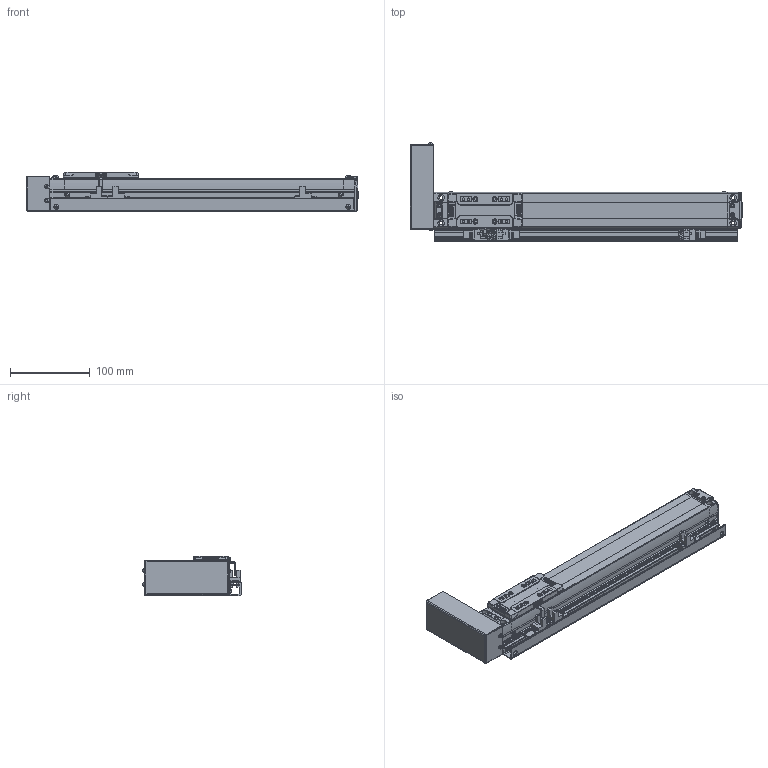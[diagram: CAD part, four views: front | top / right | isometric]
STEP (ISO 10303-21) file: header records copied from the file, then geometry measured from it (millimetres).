
FILE_DESCRIPTION(('STEP AP214'),'1');
FILE_NAME('Z:/Web/3D/SAN45/2013.ver/STP/SAN45-250PL+3SR.stp','2013-05-15T00:28:37',(' '),(' '),'Spatial InterOp 3D',' ',' ');
FILE_SCHEMA(('automotive_design'));
Length unit declared in the file: millimetre
Products named in the file (46): BODY-SAN45; REAR-SAN45; RRCV-SAN45; BHCS M3 x 6L; BHCS M3 X 6L; FRONT-SAN45; SHAFT; RN8 x 0.75; SSFX-SAN45; SLIDE-SAN45; SLCV-IM45; FHCS M3 x 6L; BTCV-SAN45; SRL-16x17-380L; EE-SX674; SBK-SX674-352; SDG-SA45; SCREW M3 x 5L
Bounding box: 416.15 x 123.06 x 50 mm (x, y, z)
Volume: 881171.4 mm3; surface area: 190864.2 mm2
Topology: 46 solids, 46 shells, 2327 faces, 6009 edges, 3859 vertices
Faces by surface type: plane 1288, cylinder 727, cone 146, sphere 84, bspline 44, torus 32, extrusion 6
Entity records: 94251 total; most frequent: CARTESIAN_POINT 16813, DIRECTION 12508, ORIENTED_EDGE 11878, EDGE_CURVE 5939, AXIS2_PLACEMENT_3D 4367, VERTEX_POINT 3859, VECTOR 3774, LINE 3768
